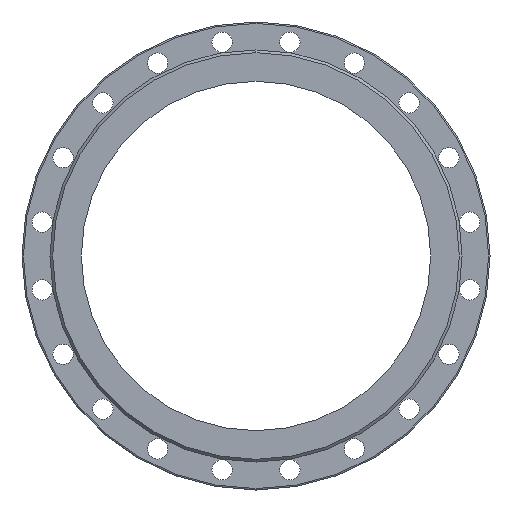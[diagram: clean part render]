
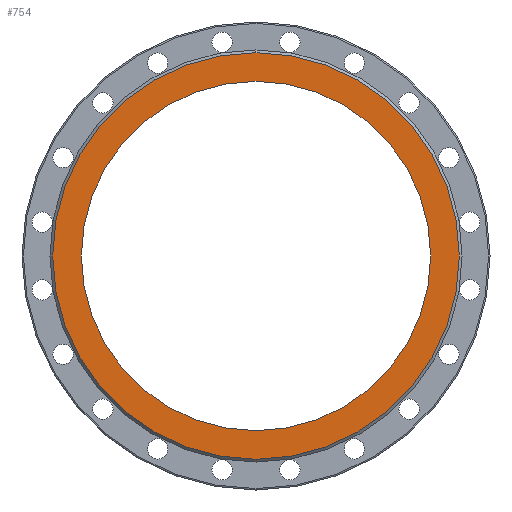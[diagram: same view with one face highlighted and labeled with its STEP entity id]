
A CAD part, left-side view. The second image highlights one B-rep face of the part: STEP entity #754.
In plain terms, the highlighted planar face has unit normal (-1, 0, 0).
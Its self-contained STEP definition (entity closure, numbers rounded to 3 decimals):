
#262 = ORIENTED_EDGE ( 'NONE', *, *, #1334, .F. ) ;
#271 = DIRECTION ( 'NONE',  ( -1., 0., 0. ) ) ;
#287 = EDGE_CURVE ( 'Defeatured_0_2+Defeatured_0_3+Defeatured_0_3+Defeatured_0_3', #5558, #500, #1850, .T. ) ;
#400 = DIRECTION ( 'NONE',  ( 0., 0., 1. ) ) ;
#500 = VERTEX_POINT ( 'NONE', #1255 ) ;
#580 = FACE_BOUND ( 'NONE', #5792, .T. ) ;
#754 = ADVANCED_FACE ( 'Defeatured_0_3', ( #580, #4293 ), #1066, .F. ) ;
#985 = AXIS2_PLACEMENT_3D ( 'NONE', #3701, #4662, #4278 ) ;
#1066 = PLANE ( 'NONE',  #3679 ) ;
#1109 = CARTESIAN_POINT ( 'NONE',  ( -250., 0., 291. ) ) ;
#1242 = CARTESIAN_POINT ( 'NONE',  ( -250., 0., 0. ) ) ;
#1255 = CARTESIAN_POINT ( 'NONE',  ( -250., 0., -250. ) ) ;
#1304 = AXIS2_PLACEMENT_3D ( 'NONE', #1242, #271, #1661 ) ;
#1312 = AXIS2_PLACEMENT_3D ( 'NONE', #3717, #2765, #400 ) ;
#1334 = EDGE_CURVE ( 'Defeatured_0_2+Defeatured_0_3+Defeatured_0_3+Defeatured_0_3', #500, #5558, #5614, .T. ) ;
#1661 = DIRECTION ( 'NONE',  ( 0., 0., 1. ) ) ;
#1725 = DIRECTION ( 'NONE',  ( 0., 0., 1. ) ) ;
#1835 = ORIENTED_EDGE ( 'NONE', *, *, #5261, .T. ) ;
#1850 = CIRCLE ( 'NONE', #985, 250. ) ;
#2027 = DIRECTION ( 'NONE',  ( 0., 0., -1. ) ) ;
#2272 = VERTEX_POINT ( 'NONE', #1109 ) ;
#2451 = CARTESIAN_POINT ( 'NONE',  ( -250., 250., 0. ) ) ;
#2545 = CARTESIAN_POINT ( 'NONE',  ( -250., 0., 0. ) ) ;
#2765 = DIRECTION ( 'NONE',  ( -1., 0., 0. ) ) ;
#2941 = CIRCLE ( 'NONE', #1312, 291. ) ;
#3679 = AXIS2_PLACEMENT_3D ( 'NONE', #2451, #4770, #2027 ) ;
#3701 = CARTESIAN_POINT ( 'NONE',  ( -250., 0., 0. ) ) ;
#3717 = CARTESIAN_POINT ( 'NONE',  ( -250., 0., 0. ) ) ;
#3856 = CARTESIAN_POINT ( 'NONE',  ( -250., 0., -291. ) ) ;
#4278 = DIRECTION ( 'NONE',  ( 0., 0., 1. ) ) ;
#4293 = FACE_OUTER_BOUND ( 'NONE', #5067, .T. ) ;
#4662 = DIRECTION ( 'NONE',  ( -1., 0., 0. ) ) ;
#4678 = ORIENTED_EDGE ( 'NONE', *, *, #4885, .T. ) ;
#4770 = DIRECTION ( 'NONE',  ( 1., 0., 0. ) ) ;
#4800 = ORIENTED_EDGE ( 'NONE', *, *, #287, .F. ) ;
#4843 = CARTESIAN_POINT ( 'NONE',  ( -250., 0., 250. ) ) ;
#4885 = EDGE_CURVE ( 'Defeatured_0_3+Defeatured_0_4+Defeatured_0_4+Defeatured_0_4', #2272, #5867, #2941, .T. ) ;
#5058 = CIRCLE ( 'NONE', #5249, 291. ) ;
#5067 = EDGE_LOOP ( 'NONE', ( #1835, #4678 ) ) ;
#5249 = AXIS2_PLACEMENT_3D ( 'NONE', #2545, #5853, #1725 ) ;
#5261 = EDGE_CURVE ( 'Defeatured_0_3+Defeatured_0_4+Defeatured_0_4+Defeatured_0_4', #5867, #2272, #5058, .T. ) ;
#5558 = VERTEX_POINT ( 'NONE', #4843 ) ;
#5614 = CIRCLE ( 'NONE', #1304, 250. ) ;
#5792 = EDGE_LOOP ( 'NONE', ( #4800, #262 ) ) ;
#5853 = DIRECTION ( 'NONE',  ( -1., 0., 0. ) ) ;
#5867 = VERTEX_POINT ( 'NONE', #3856 ) ;
